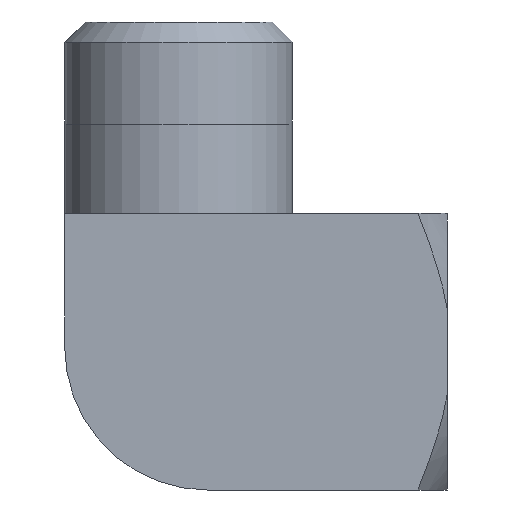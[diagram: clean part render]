
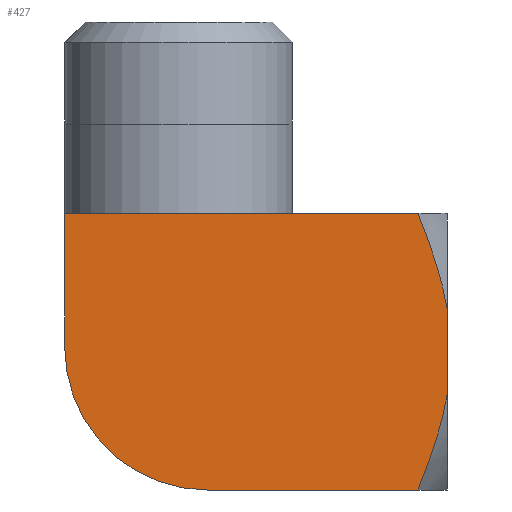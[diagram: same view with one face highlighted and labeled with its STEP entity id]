
A CAD part, front view. The second image highlights one B-rep face of the part: STEP entity #427.
In plain terms, the highlighted planar face has unit normal (0, -1, 0).
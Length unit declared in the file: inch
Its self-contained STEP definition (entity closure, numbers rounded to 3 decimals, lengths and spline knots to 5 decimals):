
#15=(
BOUNDED_CURVE()
B_SPLINE_CURVE(2,(#802,#803,#804),.UNSPECIFIED.,.F.,.F.)
B_SPLINE_CURVE_WITH_KNOTS((3,3),(0.,0.7526),.UNSPECIFIED.)
CURVE()
GEOMETRIC_REPRESENTATION_ITEM()
RATIONAL_B_SPLINE_CURVE((1.,1.043,1.))
REPRESENTATION_ITEM('')
);
#16=(
BOUNDED_CURVE()
B_SPLINE_CURVE(2,(#806,#807,#808),.UNSPECIFIED.,.F.,.F.)
B_SPLINE_CURVE_WITH_KNOTS((3,3),(0.,0.7526),.UNSPECIFIED.)
CURVE()
GEOMETRIC_REPRESENTATION_ITEM()
RATIONAL_B_SPLINE_CURVE((1.,1.043,1.))
REPRESENTATION_ITEM('')
);
#37=PLANE('',#486);
#61=FACE_OUTER_BOUND('',#88,.T.);
#88=EDGE_LOOP('',(#348,#349,#350,#351,#352,#353,#354));
#107=LINE('',#655,#130);
#115=LINE('',#793,#138);
#119=LINE('',#801,#142);
#120=LINE('',#809,#143);
#130=VECTOR('',#530,0.3937);
#138=VECTOR('',#582,0.3937);
#142=VECTOR('',#588,0.3937);
#143=VECTOR('',#589,0.3937);
#167=CIRCLE('',#483,0.42);
#183=VERTEX_POINT('',#652);
#184=VERTEX_POINT('',#654);
#201=VERTEX_POINT('',#783);
#202=VERTEX_POINT('',#784);
#205=VERTEX_POINT('',#792);
#208=VERTEX_POINT('',#800);
#209=VERTEX_POINT('',#805);
#227=EDGE_CURVE('',#183,#184,#107,.T.);
#251=EDGE_CURVE('',#201,#202,#167,.T.);
#255=EDGE_CURVE('',#202,#205,#115,.T.);
#259=EDGE_CURVE('',#208,#201,#119,.T.);
#260=EDGE_CURVE('',#184,#208,#15,.T.);
#261=EDGE_CURVE('',#209,#183,#16,.T.);
#262=EDGE_CURVE('',#209,#205,#120,.T.);
#348=ORIENTED_EDGE('',*,*,#251,.F.);
#349=ORIENTED_EDGE('',*,*,#259,.F.);
#350=ORIENTED_EDGE('',*,*,#260,.F.);
#351=ORIENTED_EDGE('',*,*,#227,.F.);
#352=ORIENTED_EDGE('',*,*,#261,.F.);
#353=ORIENTED_EDGE('',*,*,#262,.T.);
#354=ORIENTED_EDGE('',*,*,#255,.F.);
#427=ADVANCED_FACE('',(#61),#37,.F.);
#483=AXIS2_PLACEMENT_3D('',#785,#574,#575);
#486=AXIS2_PLACEMENT_3D('',#799,#586,#587);
#530=DIRECTION('',(0.,0.,-1.));
#574=DIRECTION('center_axis',(0.,1.,0.));
#575=DIRECTION('ref_axis',(-0.707,0.,-0.707));
#582=DIRECTION('',(0.,0.,1.));
#586=DIRECTION('center_axis',(0.,1.,0.));
#587=DIRECTION('ref_axis',(0.,0.,-1.));
#588=DIRECTION('',(-1.,0.,0.));
#589=DIRECTION('',(-1.,0.,0.));
#652=CARTESIAN_POINT('',(0.79,-0.4065,0.12361));
#654=CARTESIAN_POINT('',(0.79,-0.4065,-0.12361));
#655=CARTESIAN_POINT('',(0.79,-0.4065,0.20325));
#783=CARTESIAN_POINT('',(0.085,-0.4065,-0.4065));
#784=CARTESIAN_POINT('',(-0.335,-0.4065,0.0135));
#785=CARTESIAN_POINT('Origin',(0.085,-0.4065,0.0135));
#792=CARTESIAN_POINT('',(-0.335,-0.4065,0.4065));
#793=CARTESIAN_POINT('',(-0.335,-0.4065,0.20325));
#799=CARTESIAN_POINT('Origin',(0.79,-0.4065,0.4065));
#800=CARTESIAN_POINT('',(0.7034,-0.4065,-0.4065));
#801=CARTESIAN_POINT('',(0.,-0.4065,-0.4065));
#802=CARTESIAN_POINT('Ctrl Pts',(0.79,-0.4065,-0.12361));
#803=CARTESIAN_POINT('Ctrl Pts',(0.76981,-0.4065,-0.24383));
#804=CARTESIAN_POINT('Ctrl Pts',(0.7034,-0.4065,-0.4065));
#805=CARTESIAN_POINT('',(0.7034,-0.4065,0.4065));
#806=CARTESIAN_POINT('Ctrl Pts',(0.7034,-0.4065,0.4065));
#807=CARTESIAN_POINT('Ctrl Pts',(0.76981,-0.4065,0.24383));
#808=CARTESIAN_POINT('Ctrl Pts',(0.79,-0.4065,0.12361));
#809=CARTESIAN_POINT('',(0.,-0.4065,0.4065));
